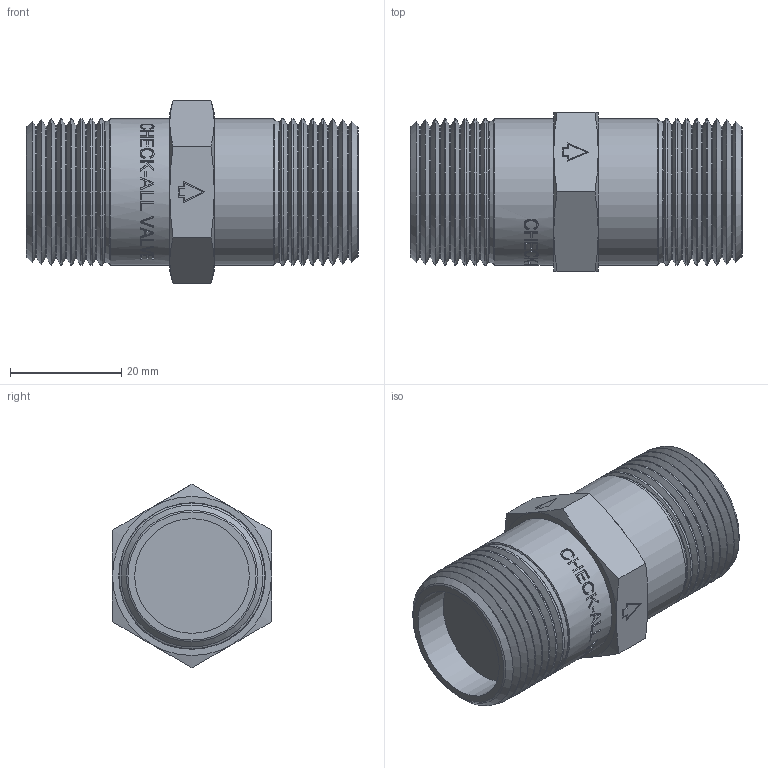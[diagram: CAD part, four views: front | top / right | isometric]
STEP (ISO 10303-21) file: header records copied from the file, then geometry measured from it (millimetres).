
FILE_DESCRIPTION( ( 'Unknown' ), '1' );
FILE_NAME( 'Y:/ENGR/Catalog & Web/3D Models for Web/CN/STEP/CNF.stp', 'Unknown', ( 'Unknown' ), ( 'Unknown' ), 'PSStep 14.0', 'Unknown', ' ' );
FILE_SCHEMA( ( 'AUTOMOTIVE_DESIGN { 1 0 10303 214 1 1 1 1 }' ) );
Length unit declared in the file: inch
Products named in the file (1): 1
Bounding box: 59.66 x 28.57 x 33 mm (x, y, z)
Volume: 27926.1 mm3; surface area: 8672.9 mm2
Topology: 1 solids, 1 shells, 303 faces, 753 edges, 481 vertices
Faces by surface type: plane 159, cone 52, bspline 39, cylinder 35, torus 18
Full cylindrical faces by diameter (mm): 20.625 x2, 26.314 x14
Entity records: 12364 total; most frequent: CARTESIAN_POINT 4071, ORIENTED_EDGE 1320, DIRECTION 842, EDGE_CURVE 660, VERTEX_POINT 462, B_SPLINE_CURVE_WITH_KNOTS 438, EDGE_LOOP 406, AXIS2_PLACEMENT_3D 355
